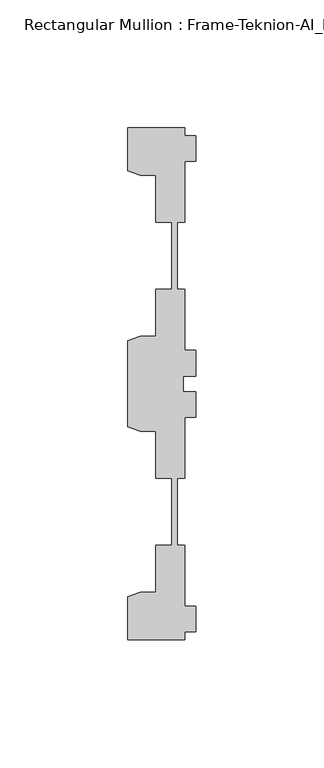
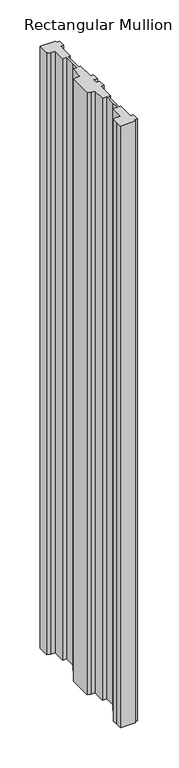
"""IFC4 building model written with IfcOpenShell, lengths in millimetres: member geometry, Rectangular Mullion : Frame-Teknion-AI_Healthcare-Ceiling_Double_Channel."""

import ifcopenshell
import ifcopenshell.guid

model = None  # the IFC model being written
_history = None  # IfcOwnerHistory: only IFC2X3 demands one
_inside = {}  # id of a spatial element -> (the spatial element, [elements in it])
_under = {}  # id of a project, library or spatial element -> (it, [spatial elements below it])
_declared = {}  # id of a project -> (the project, [libraries it declares])
_typed = {}  # id of a type object -> (the type object, [elements of that type])
_made_of = {}  # id of a material, layer set ... -> (it, [elements and type objects made of it])


def new_model(schema):
    """Start an empty IFC model of exactly this schema.

    Asked for "IFC4X3", IfcOpenShell would pick the latest addendum, in which some entities
    have other attributes; the version numbers below select the first issue.
    IFC2X3 requires an IfcOwnerHistory on every rooted entity: one is made here for all.
    """
    global model, _history
    if schema == "IFC4X3":
        model = ifcopenshell.file(schema_version=(4, 3, 0, 0))
    else:
        model = ifcopenshell.file(schema=schema)
    _inside.clear()
    _under.clear()
    _declared.clear()
    _typed.clear()
    _made_of.clear()
    _history = None
    if model.schema == "IFC2X3":
        org = make("IfcOrganization", Name="unknown")
        user = make(
            "IfcPersonAndOrganization",
            ThePerson=make("IfcPerson", FamilyName="unknown"),
            TheOrganization=org,
        )
        app = make(
            "IfcApplication",
            ApplicationDeveloper=org,
            Version="unknown",
            ApplicationFullName="unknown",
            ApplicationIdentifier="unknown",
        )
        _history = make(
            "IfcOwnerHistory",
            OwningUser=user,
            OwningApplication=app,
            ChangeAction="ADDED",
            CreationDate=0,
        )
    return model


def make(cls, **values):
    """One entity of the class cls with the attributes given. An attribute that is None is left unset."""
    return model.create_entity(
        cls, **{name: value for name, value in values.items() if value is not None}
    )


def rooted(cls, **values):
    """An entity with a GlobalId (a new one), such as an element, a storey or a relation."""
    return make(cls, GlobalId=ifcopenshell.guid.new(), OwnerHistory=_history, **values)


def si_unit(unit_type, name, prefix=None):
    """IfcSIUnit, for example si_unit("LENGTHUNIT", "METRE", prefix="MILLI")."""
    return make("IfcSIUnit", UnitType=unit_type, Prefix=prefix, Name=name)


def assignment(units):
    """IfcUnitAssignment: the units of a project."""
    return None if units is None else make("IfcUnitAssignment", Units=units)


def point(xyz):
    """IfcCartesianPoint."""
    return None if xyz is None else make("IfcCartesianPoint", Coordinates=xyz)


def direction(xyz):
    """IfcDirection."""
    return None if xyz is None else make("IfcDirection", DirectionRatios=xyz)


def frame(location, z_axis=None, x_axis=None):
    """IfcAxis2Placement3D, a coordinate frame: its origin and axes. An axis left out is left unset."""
    return make(
        "IfcAxis2Placement3D",
        Location=point(location),
        Axis=direction(z_axis),
        RefDirection=direction(x_axis),
    )


def origin():
    """The frame at (0, 0, 0) with its axes left unset."""
    return frame((0.0, 0.0, 0.0))


def place(relative_to, where):
    """IfcLocalPlacement: puts the frame where relative to a parent placement (None: the world)."""
    return make(
        "IfcLocalPlacement", PlacementRelTo=relative_to, RelativePlacement=where
    )


def context(
    kind, dimensions, precision=None, world=None, true_north=None, identifier=None
):
    """IfcGeometricRepresentationContext, for example the 3D "Model" context."""
    return make(
        "IfcGeometricRepresentationContext",
        ContextIdentifier=identifier,
        ContextType=kind,
        CoordinateSpaceDimension=dimensions,
        Precision=precision,
        WorldCoordinateSystem=world,
        TrueNorth=true_north,
    )


def project(units=None, contexts=None):
    """IfcProject with its units and contexts."""
    return rooted(
        "IfcProject",
        Name="project",
        RepresentationContexts=contexts,
        UnitsInContext=assignment(units),
    )


def spatial(cls, under=None, at=None, **own):
    """A site, building, storey or space (cls), placed at a placement, below another one or the project."""
    s = rooted(cls, ObjectPlacement=at, **own)
    if under is not None:
        _under.setdefault(under.id(), (under, []))[1].append(s)
    return s


def polyline(points):
    """IfcPolyline through the points."""
    return make("IfcPolyline", Points=[point(p) for p in points])


def outline(outer, holes=None, kind="AREA"):
    """IfcArbitraryClosedProfileDef: a profile drawn as a closed curve; with holes, ...WithVoids."""
    if holes is None:
        return make("IfcArbitraryClosedProfileDef", ProfileType=kind, OuterCurve=outer)
    return make(
        "IfcArbitraryProfileDefWithVoids",
        ProfileType=kind,
        OuterCurve=outer,
        InnerCurves=holes,
    )


def extrude(swept, where, along, depth):
    """IfcExtrudedAreaSolid: the profile swept, set in the frame where, extruded along a direction by depth."""
    return make(
        "IfcExtrudedAreaSolid",
        SweptArea=swept,
        Position=where,
        ExtrudedDirection=direction(along),
        Depth=depth,
    )


def shape(context_of_items, identifier, shape_type, items):
    """IfcShapeRepresentation: the items that make up one representation, for example the "Body"."""
    return make(
        "IfcShapeRepresentation",
        ContextOfItems=context_of_items,
        RepresentationIdentifier=identifier,
        RepresentationType=shape_type,
        Items=items,
    )


def source(mapping_origin, context_of_items, identifier, shape_type, items):
    """IfcRepresentationMap: a shape defined once, which mapped items show again and again."""
    return make(
        "IfcRepresentationMap",
        MappingOrigin=mapping_origin,
        MappedRepresentation=shape(context_of_items, identifier, shape_type, items),
    )


def transform(
    local_origin,
    x_axis=None,
    y_axis=None,
    z_axis=None,
    scale=None,
    scale2=None,
    scale3=None,
    uniform=True,
):
    """IfcCartesianTransformationOperator3D, or its non-uniform kind. x_axis, y_axis, z_axis: its Axis1, 2, 3."""
    if uniform:
        return make(
            "IfcCartesianTransformationOperator3D",
            Axis1=direction(x_axis),
            Axis2=direction(y_axis),
            LocalOrigin=point(local_origin),
            Scale=scale,
            Axis3=direction(z_axis),
        )
    return make(
        "IfcCartesianTransformationOperator3DnonUniform",
        Axis1=direction(x_axis),
        Axis2=direction(y_axis),
        LocalOrigin=point(local_origin),
        Scale=scale,
        Axis3=direction(z_axis),
        Scale2=scale2,
        Scale3=scale3,
    )


def mapped(mapping_source, mapping_target):
    """IfcMappedItem: shows the shape of a source again, moved by a transform."""
    return make(
        "IfcMappedItem", MappingSource=mapping_source, MappingTarget=mapping_target
    )


def made_of(thing, what):
    """Note that an element or type object is made of a material, layer set ...; save() writes the relation."""
    if what is not None:
        _made_of.setdefault(what.id(), (what, []))[1].append(thing)
    return thing


def element(
    cls,
    number,
    at=None,
    inside=None,
    cuts=None,
    type_object=None,
    material=None,
    context=None,
    identifier="Body",
    shape_type=None,
    held_by="IfcProductDefinitionShape",
    body=None,
    shapes=None,
    **own,
):
    """One element of the class cls, such as IfcWall. Its Tag is "e" and its number.

    at: its placement. inside: the storey or other place that contains it. cuts: it is an
    opening in that element (IfcRelVoidsElement). A single representation is given by context,
    identifier, shape_type and body (its items); several are given by shapes. held_by: the class
    of the entity that holds the representations. save() writes the other relations.
    """
    e = rooted(cls, Tag="e%d" % number, ObjectPlacement=at, **own)
    if body is not None:
        shapes = [shape(context, identifier, shape_type, body)]
    if shapes is not None:
        e.Representation = make(held_by, Representations=shapes)
    if inside is not None:
        _inside.setdefault(inside.id(), (inside, []))[1].append(e)
    if cuts is not None:
        rooted(
            "IfcRelVoidsElement", RelatingBuildingElement=cuts, RelatedOpeningElement=e
        )
    if type_object is not None:
        _typed.setdefault(type_object.id(), (type_object, []))[1].append(e)
    return made_of(e, material)


def aggregate(whole, parts):
    """IfcRelAggregates: a whole, such as a stair, and the parts it consists of."""
    return rooted("IfcRelAggregates", RelatingObject=whole, RelatedObjects=parts)


def save(model, path):
    """Write the relations noted so far, then the file.

    IfcRelAggregates (storeys below a building ...), IfcRelContainedInSpatialStructure (elements
    in a storey), IfcRelDefinesByType, IfcRelAssociatesMaterial and IfcRelDeclares: one each for
    every whole, place, type object, material and project.
    """
    for whole, parts in _under.values():
        aggregate(whole, parts)
    for where, things in _inside.values():
        rooted(
            "IfcRelContainedInSpatialStructure",
            RelatedElements=things,
            RelatingStructure=where,
        )
    for kind, things in _typed.values():
        rooted("IfcRelDefinesByType", RelatedObjects=things, RelatingType=kind)
    for what, things in _made_of.values():
        rooted("IfcRelAssociatesMaterial", RelatedObjects=things, RelatingMaterial=what)
    for by, libraries in _declared.values():
        rooted("IfcRelDeclares", RelatingContext=by, RelatedDefinitions=libraries)
    model.write(path)


def rectangular_mullion_frame_teknion_ai_healthcare_ceiling_cd054a4e(model_context):
    return source(origin(), model_context, "Body", "SweptSolid", [
        extrude(outline(polyline([(-4.2672007, 100.0110586), (-4.2672007, 96.9534451), (0.0, 96.9534451), (0.0, 86.9534377), (-4.2672007, 86.9534377), (-4.2672007, 63.0824429), (-7.1647766, 63.0824429), (-7.1647766, 48.9859882), (-7.1647766, 36.9204406), (-4.2672007, 36.9204406), (-4.2672007, 13.0494413), (0.0, 13.0494413), (0.0, 3.0494419), (-4.7752002, 3.0494419), (-4.7752002, 0.0), (-4.7752002, -3.0494419), (0.0, -3.0494419), (0.0, -13.0494413), (-4.2672007, -13.0494413), (-4.2672007, -36.9204406), (-7.1647766, -36.9204406), (-7.1647766, -50.7500324), (-7.1647766, -63.0824429), (-4.2672007, -63.0824429), (-4.2672007, -86.9534377), (0.0, -86.9534377), (0.0, -96.9534451), (-4.2672007, -96.9534451), (-4.2672007, -100.0014421), (-26.4921999, -100.0014421), (-26.4921999, -90.2224424), (-26.4921999, -83.1915336), (-21.6625199, -81.4594689), (-15.6737764, -81.4594689), (-15.6737764, -63.0824429), (-9.4507761, -63.0824429), (-9.4507761, -50.8315128), (-9.4507761, -36.9204406), (-15.6737764, -36.9204406), (-15.6737764, -18.5434146), (-21.6625199, -18.5434146), (-26.4921999, -16.8113452), (-26.4921999, 16.8113452), (-21.6357055, 18.5530311), (-15.6737764, 18.5530311), (-15.6737764, 36.9300571), (-9.4507761, 36.9300571), (-9.4507761, 47.8659877), (-9.4507761, 63.0920594), (-15.6737764, 63.0920594), (-15.6737764, 81.4690854), (-21.6625199, 81.4690854), (-26.4921999, 83.20115), (-26.4921999, 100.0110586), (-4.2672007, 100.0110586)])), frame((0.0, 0.0, -914.4), z_axis=(0.0, 0.0, 1.0), x_axis=(1.0, 0.0, 0.0)), (0.0, 0.0, 1.0), 914.4),
    ])


if __name__ == "__main__":
    model = new_model("IFC4")
    model_context = context("Model", 3, world=origin())
    ifc_project = project(units=[si_unit("LENGTHUNIT", "METRE", prefix="MILLI")], contexts=[model_context])
    site = spatial("IfcSite", under=ifc_project)
    building = spatial("IfcBuilding", under=site)
    placement = place(None, origin())
    rectangular_mullion_frame_teknion_ai_healthcare_ceiling_shape = rectangular_mullion_frame_teknion_ai_healthcare_ceiling_cd054a4e(model_context)
    element("IfcMember", 1, ObjectType="Rectangular Mullion : Frame-Teknion-AI_Healthcare-Ceiling_Double_Channel", at=placement, inside=building, context=model_context, shape_type="MappedRepresentation", body=[
        mapped(rectangular_mullion_frame_teknion_ai_healthcare_ceiling_shape, transform((0.0, 0.0, 0.0), x_axis=(1.0, 0.0, 0.0), y_axis=(0.0, 1.0, 0.0), z_axis=(0.0, 0.0, 1.0))),
    ])
    save(model, "model.ifc")
